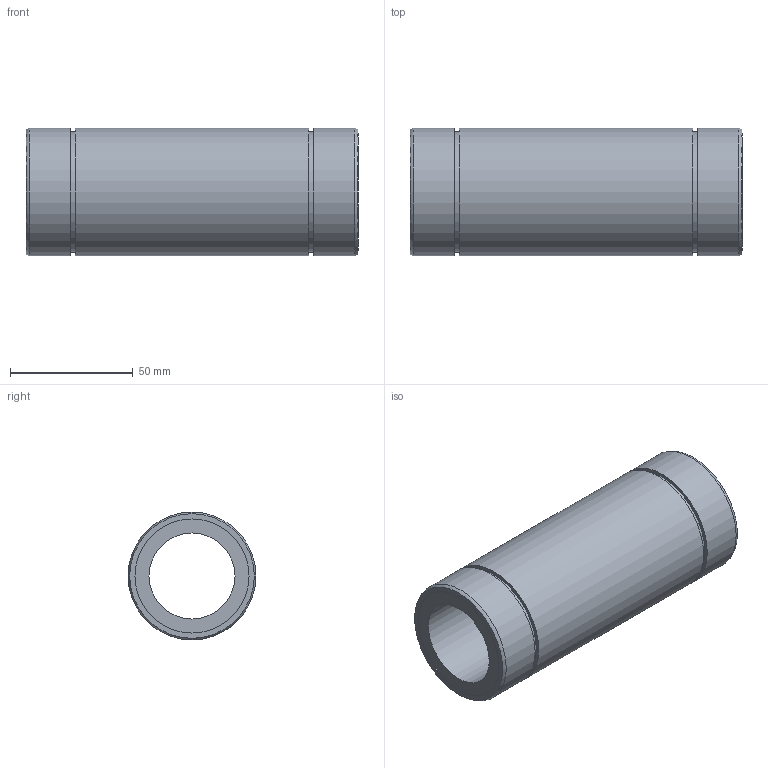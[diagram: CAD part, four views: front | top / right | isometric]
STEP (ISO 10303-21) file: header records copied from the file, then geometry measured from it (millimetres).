
FILE_DESCRIPTION((''),'2;1');
FILE_NAME('D:\製品 (図面)\カタログ用3D\リニアベアリング関連\STEP形式\LD\LD35.stp','2010-06-02T17:41:56',('Tsuchiya'),(''),'Autodesk Inventor 10','Autodesk Inventor 10','');
FILE_SCHEMA(('AUTOMOTIVE_DESIGN { 1 0 10303 214 1 1 1 1 }'));
Length unit declared in the file: millimetre
Products named in the file (1): LD35
Bounding box: 135 x 52 x 52 mm (x, y, z)
Volume: 155542.7 mm3; surface area: 39970.9 mm2
Topology: 1 solids, 1 shells, 18 faces, 28 edges, 18 vertices
Faces by surface type: plane 8, cylinder 8, torus 2
Full cylindrical faces by diameter (mm): 35 x1, 46.4 x2, 49 x2, 52 x3
Entity records: 391 total; most frequent: DIRECTION 74, CARTESIAN_POINT 55, AXIS2_PLACEMENT_3D 37, ORIENTED_EDGE 36, EDGE_LOOP 36, VERTEX_POINT 18, CIRCLE 18, EDGE_CURVE 18
